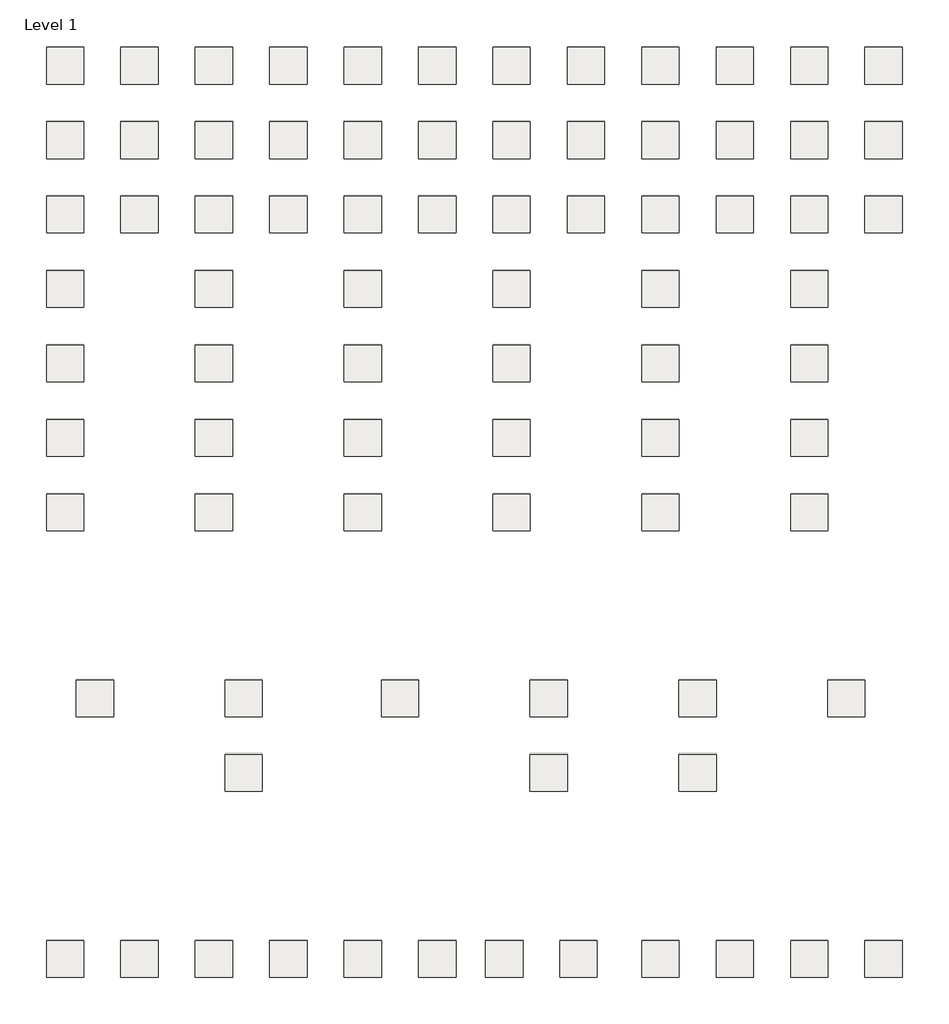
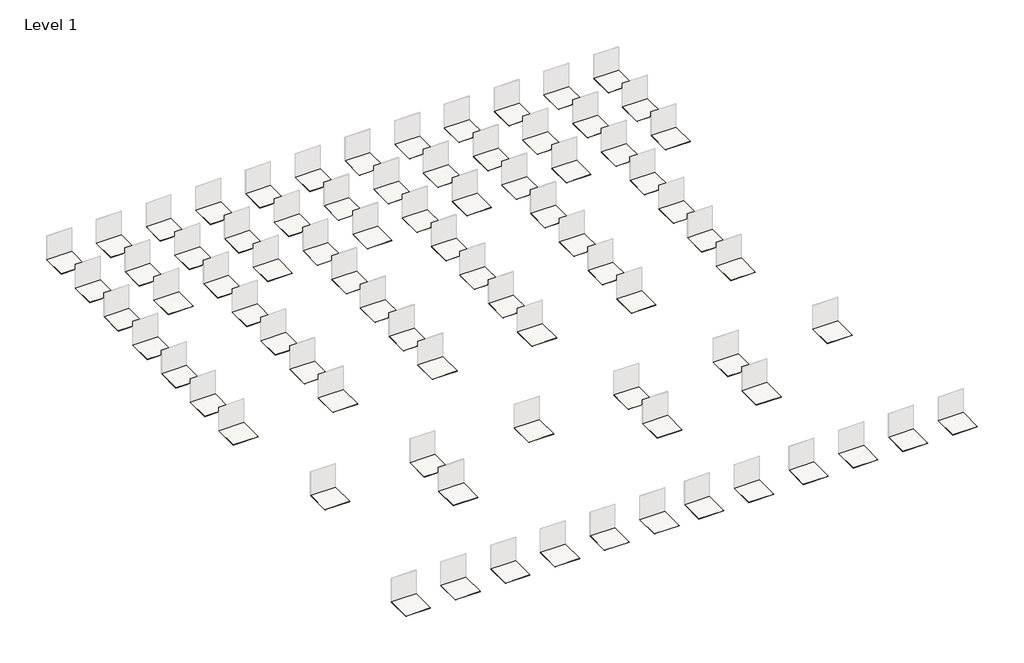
# One storey, part 2 of 2: 81 coverings.
"""IFC4 building model written with IfcOpenShell, lengths in millimetres."""

from ifc_helpers import new_model, si_unit, frame, origin, place, context, project, spatial, polyline, outline, extrude, element, save

model = new_model("IFC4")

# Units and contexts
model_context = context("Model", 3, world=origin())
ifc_project = project(units=[si_unit("LENGTHUNIT", "METRE", prefix="MILLI")], contexts=[model_context])

# Site, building, storey
site = spatial("IfcSite", under=ifc_project)
building = spatial("IfcBuilding", under=site)
storey = spatial("IfcBuildingStorey", under=building, Name="Level 1", Elevation=0.0)

# Coverings
placement = place(None, origin())
element("IfcCovering", 1, ObjectType="REVIGRÉS-URBAN-BASE-29,5X29,5-RECT-ANTRACITE", at=placement, inside=storey, context=model_context, shape_type="SweptSolid", body=[
    extrude(outline(polyline([(3778.642714, -1191.9242026), (3778.642714, -2191.9242026), (2778.642714, -2191.9242026), (2778.642714, -1191.9242026), (3778.642714, -1191.9242026)])), frame((0.0, 0.0, -7.7), z_axis=(0.0, 0.0, 1.0), x_axis=(1.0, 0.0, 0.0)), (0.0, 0.0, 1.0), 7.7),
])
element("IfcCovering", 2, ObjectType="REVIGRÉS-URBAN-BASE-30X30-NAT-ANTRACITE", at=placement, inside=storey, context=model_context, shape_type="SweptSolid", body=[
    extrude(outline(polyline([(5778.642714, -1191.9242026), (5778.642714, -2191.9242026), (4778.642714, -2191.9242026), (4778.642714, -1191.9242026), (5778.642714, -1191.9242026)])), frame((0.0, 0.0, -8.5), z_axis=(0.0, 0.0, 1.0), x_axis=(1.0, 0.0, 0.0)), (0.0, 0.0, 1.0), 8.5),
])
element("IfcCovering", 3, ObjectType="REVIGRÉS-URBAN-BASE-29,5X29,5-RECT-BONE", at=placement, inside=storey, context=model_context, shape_type="SweptSolid", body=[
    extrude(outline(polyline([(7778.642714, -1191.9242026), (7778.642714, -2191.9242026), (6778.642714, -2191.9242026), (6778.642714, -1191.9242026), (7778.642714, -1191.9242026)])), frame((0.0, 0.0, -7.7), z_axis=(0.0, 0.0, 1.0), x_axis=(1.0, 0.0, 0.0)), (0.0, 0.0, 1.0), 7.7),
])
element("IfcCovering", 4, ObjectType="REVIGRÉS-URBAN-BASE-30X30-NAT-BONE", at=placement, inside=storey, context=model_context, shape_type="SweptSolid", body=[
    extrude(outline(polyline([(9778.642714, -1191.9242026), (9778.642714, -2191.9242026), (8778.642714, -2191.9242026), (8778.642714, -1191.9242026), (9778.642714, -1191.9242026)])), frame((0.0, 0.0, -8.5), z_axis=(0.0, 0.0, 1.0), x_axis=(1.0, 0.0, 0.0)), (0.0, 0.0, 1.0), 8.5),
])
element("IfcCovering", 5, ObjectType="REVIGRÉS-URBAN-BASE-29,5X29,5-RECT-CRAFT", at=placement, inside=storey, context=model_context, shape_type="SweptSolid", body=[
    extrude(outline(polyline([(11778.642714, -1191.9242026), (11778.642714, -2191.9242026), (10778.642714, -2191.9242026), (10778.642714, -1191.9242026), (11778.642714, -1191.9242026)])), frame((0.0, 0.0, -7.7), z_axis=(0.0, 0.0, 1.0), x_axis=(1.0, 0.0, 0.0)), (0.0, 0.0, 1.0), 7.7),
])
element("IfcCovering", 6, ObjectType="REVIGRÉS-URBAN-BASE-30X30-NAT-CRAFT", at=placement, inside=storey, context=model_context, shape_type="SweptSolid", body=[
    extrude(outline(polyline([(13778.642714, -1191.9242026), (13778.642714, -2191.9242026), (12778.642714, -2191.9242026), (12778.642714, -1191.9242026), (13778.642714, -1191.9242026)])), frame((0.0, 0.0, -8.5), z_axis=(0.0, 0.0, 1.0), x_axis=(1.0, 0.0, 0.0)), (0.0, 0.0, 1.0), 8.5),
])
element("IfcCovering", 7, ObjectType="REVIGRÉS-URBAN-BASE-29,5X29,5-RECT-FOG", at=placement, inside=storey, context=model_context, shape_type="SweptSolid", body=[
    extrude(outline(polyline([(15778.642714, -1191.9242026), (15778.642714, -2191.9242026), (14778.642714, -2191.9242026), (14778.642714, -1191.9242026), (15778.642714, -1191.9242026)])), frame((0.0, 0.0, -7.7), z_axis=(0.0, 0.0, 1.0), x_axis=(1.0, 0.0, 0.0)), (0.0, 0.0, 1.0), 7.7),
])
element("IfcCovering", 8, ObjectType="REVIGRÉS-URBAN-BASE-30X30-NAT-FOG", at=placement, inside=storey, context=model_context, shape_type="SweptSolid", body=[
    extrude(outline(polyline([(17778.642714, -1191.9242026), (17778.642714, -2191.9242026), (16778.642714, -2191.9242026), (16778.642714, -1191.9242026), (17778.642714, -1191.9242026)])), frame((0.0, 0.0, -8.5), z_axis=(0.0, 0.0, 1.0), x_axis=(1.0, 0.0, 0.0)), (0.0, 0.0, 1.0), 8.5),
])
element("IfcCovering", 9, ObjectType="REVIGRÉS-URBAN-BASE-29,5X29,5-RECT-GRIS", at=placement, inside=storey, context=model_context, shape_type="SweptSolid", body=[
    extrude(outline(polyline([(19778.642714, -1191.9242026), (19778.642714, -2191.9242026), (18778.642714, -2191.9242026), (18778.642714, -1191.9242026), (19778.642714, -1191.9242026)])), frame((0.0, 0.0, -7.7), z_axis=(0.0, 0.0, 1.0), x_axis=(1.0, 0.0, 0.0)), (0.0, 0.0, 1.0), 7.7),
])
element("IfcCovering", 10, ObjectType="REVIGRÉS-URBAN-BASE-30X30-NAT-GRIS", at=placement, inside=storey, context=model_context, shape_type="SweptSolid", body=[
    extrude(outline(polyline([(21778.642714, -1191.9242026), (21778.642714, -2191.9242026), (20778.642714, -2191.9242026), (20778.642714, -1191.9242026), (21778.642714, -1191.9242026)])), frame((0.0, 0.0, -8.5), z_axis=(0.0, 0.0, 1.0), x_axis=(1.0, 0.0, 0.0)), (0.0, 0.0, 1.0), 8.5),
])
element("IfcCovering", 11, ObjectType="REVIGRÉS-URBAN-BASE-29,5X29,5-RECT-OFFWHITE", at=placement, inside=storey, context=model_context, shape_type="SweptSolid", body=[
    extrude(outline(polyline([(23778.642714, -1191.9242026), (23778.642714, -2191.9242026), (22778.642714, -2191.9242026), (22778.642714, -1191.9242026), (23778.642714, -1191.9242026)])), frame((0.0, 0.0, -7.7), z_axis=(0.0, 0.0, 1.0), x_axis=(1.0, 0.0, 0.0)), (0.0, 0.0, 1.0), 7.7),
])
element("IfcCovering", 12, ObjectType="REVIGRÉS-URBAN-BASE-29,5X59,2-RECT-ANTRACITE", at=placement, inside=storey, context=model_context, shape_type="SweptSolid", body=[
    extrude(outline(polyline([(3778.642714, -3191.9242026), (3778.642714, -4191.9242026), (2778.642714, -4191.9242026), (2778.642714, -3191.9242026), (3778.642714, -3191.9242026)])), frame((0.0, 0.0, -8.5), z_axis=(0.0, 0.0, 1.0), x_axis=(1.0, 0.0, 0.0)), (0.0, 0.0, 1.0), 8.5),
])
element("IfcCovering", 13, ObjectType="REVIGRÉS-URBAN-BASE-29,5X59,2-RECT-BONE", at=placement, inside=storey, context=model_context, shape_type="SweptSolid", body=[
    extrude(outline(polyline([(7778.642714, -3191.9242026), (7778.642714, -4191.9242026), (6778.642714, -4191.9242026), (6778.642714, -3191.9242026), (7778.642714, -3191.9242026)])), frame((0.0, 0.0, -8.5), z_axis=(0.0, 0.0, 1.0), x_axis=(1.0, 0.0, 0.0)), (0.0, 0.0, 1.0), 8.5),
])
element("IfcCovering", 14, ObjectType="REVIGRÉS-URBAN-BASE-29,5X59,2-RECT-CRAFT", at=placement, inside=storey, context=model_context, shape_type="SweptSolid", body=[
    extrude(outline(polyline([(11778.642714, -3191.9242026), (11778.642714, -4191.9242026), (10778.642714, -4191.9242026), (10778.642714, -3191.9242026), (11778.642714, -3191.9242026)])), frame((0.0, 0.0, -8.5), z_axis=(0.0, 0.0, 1.0), x_axis=(1.0, 0.0, 0.0)), (0.0, 0.0, 1.0), 8.5),
])
element("IfcCovering", 15, ObjectType="REVIGRÉS-URBAN-BASE-29,5X59,2-RECT-FOG", at=placement, inside=storey, context=model_context, shape_type="SweptSolid", body=[
    extrude(outline(polyline([(15778.642714, -3191.9242026), (15778.642714, -4191.9242026), (14778.642714, -4191.9242026), (14778.642714, -3191.9242026), (15778.642714, -3191.9242026)])), frame((0.0, 0.0, -8.5), z_axis=(0.0, 0.0, 1.0), x_axis=(1.0, 0.0, 0.0)), (0.0, 0.0, 1.0), 8.5),
])
element("IfcCovering", 16, ObjectType="REVIGRÉS-URBAN-BASE-29,5X59,2-RECT-GRIS", at=placement, inside=storey, context=model_context, shape_type="SweptSolid", body=[
    extrude(outline(polyline([(19778.642714, -3191.9242026), (19778.642714, -4191.9242026), (18778.642714, -4191.9242026), (18778.642714, -3191.9242026), (19778.642714, -3191.9242026)])), frame((0.0, 0.0, -8.5), z_axis=(0.0, 0.0, 1.0), x_axis=(1.0, 0.0, 0.0)), (0.0, 0.0, 1.0), 8.5),
])
element("IfcCovering", 17, ObjectType="REVIGRÉS-URBAN-BASE-29,5X59,2-RECT-OFFWHITE", at=placement, inside=storey, context=model_context, shape_type="SweptSolid", body=[
    extrude(outline(polyline([(23778.642714, -3191.9242026), (23778.642714, -4191.9242026), (22778.642714, -4191.9242026), (22778.642714, -3191.9242026), (23778.642714, -3191.9242026)])), frame((0.0, 0.0, -8.5), z_axis=(0.0, 0.0, 1.0), x_axis=(1.0, 0.0, 0.0)), (0.0, 0.0, 1.0), 8.5),
])
element("IfcCovering", 18, ObjectType="REVIGRÉS-URBAN-BASE-44,35X44,35-RECT-ANTRACITE", at=placement, inside=storey, context=model_context, shape_type="SweptSolid", body=[
    extrude(outline(polyline([(3778.642714, -5191.9242026), (3778.642714, -6191.9242026), (2778.642714, -6191.9242026), (2778.642714, -5191.9242026), (3778.642714, -5191.9242026)])), frame((0.0, 0.0, -8.5), z_axis=(0.0, 0.0, 1.0), x_axis=(1.0, 0.0, 0.0)), (0.0, 0.0, 1.0), 8.5),
])
element("IfcCovering", 19, ObjectType="REVIGRÉS-URBAN-BASE-45X45-NAT-ANTRACITE", at=placement, inside=storey, context=model_context, shape_type="SweptSolid", body=[
    extrude(outline(polyline([(5778.642714, -5191.9242026), (5778.642714, -6191.9242026), (4778.642714, -6191.9242026), (4778.642714, -5191.9242026), (5778.642714, -5191.9242026)])), frame((0.0, 0.0, -8.5), z_axis=(0.0, 0.0, 1.0), x_axis=(1.0, 0.0, 0.0)), (0.0, 0.0, 1.0), 8.5),
])
element("IfcCovering", 20, ObjectType="REVIGRÉS-URBAN-BASE-44,35X44,35-RECT-BONE", at=placement, inside=storey, context=model_context, shape_type="SweptSolid", body=[
    extrude(outline(polyline([(7778.642714, -5191.9242026), (7778.642714, -6191.9242026), (6778.642714, -6191.9242026), (6778.642714, -5191.9242026), (7778.642714, -5191.9242026)])), frame((0.0, 0.0, -8.5), z_axis=(0.0, 0.0, 1.0), x_axis=(1.0, 0.0, 0.0)), (0.0, 0.0, 1.0), 8.5),
])
element("IfcCovering", 21, ObjectType="REVIGRÉS-URBAN-BASE-45X45-NAT-BONE", at=placement, inside=storey, context=model_context, shape_type="SweptSolid", body=[
    extrude(outline(polyline([(9778.642714, -5191.9242026), (9778.642714, -6191.9242026), (8778.642714, -6191.9242026), (8778.642714, -5191.9242026), (9778.642714, -5191.9242026)])), frame((0.0, 0.0, -8.5), z_axis=(0.0, 0.0, 1.0), x_axis=(1.0, 0.0, 0.0)), (0.0, 0.0, 1.0), 8.5),
])
element("IfcCovering", 22, ObjectType="REVIGRÉS-URBAN-BASE-44,35X44,35-RECT-CRAFT", at=placement, inside=storey, context=model_context, shape_type="SweptSolid", body=[
    extrude(outline(polyline([(11778.642714, -5191.9242026), (11778.642714, -6191.9242026), (10778.642714, -6191.9242026), (10778.642714, -5191.9242026), (11778.642714, -5191.9242026)])), frame((0.0, 0.0, -8.5), z_axis=(0.0, 0.0, 1.0), x_axis=(1.0, 0.0, 0.0)), (0.0, 0.0, 1.0), 8.5),
])
element("IfcCovering", 23, ObjectType="REVIGRÉS-URBAN-BASE-45X45-NAT-CRAFT", at=placement, inside=storey, context=model_context, shape_type="SweptSolid", body=[
    extrude(outline(polyline([(13778.642714, -5191.9242026), (13778.642714, -6191.9242026), (12778.642714, -6191.9242026), (12778.642714, -5191.9242026), (13778.642714, -5191.9242026)])), frame((0.0, 0.0, -8.5), z_axis=(0.0, 0.0, 1.0), x_axis=(1.0, 0.0, 0.0)), (0.0, 0.0, 1.0), 8.5),
])
element("IfcCovering", 24, ObjectType="REVIGRÉS-URBAN-BASE-44,35X44,35-RECT-FOG", at=placement, inside=storey, context=model_context, shape_type="SweptSolid", body=[
    extrude(outline(polyline([(15778.642714, -5191.9242026), (15778.642714, -6191.9242026), (14778.642714, -6191.9242026), (14778.642714, -5191.9242026), (15778.642714, -5191.9242026)])), frame((0.0, 0.0, -8.5), z_axis=(0.0, 0.0, 1.0), x_axis=(1.0, 0.0, 0.0)), (0.0, 0.0, 1.0), 8.5),
])
element("IfcCovering", 25, ObjectType="REVIGRÉS-URBAN-BASE-45X45-NAT-FOG", at=placement, inside=storey, context=model_context, shape_type="SweptSolid", body=[
    extrude(outline(polyline([(17778.642714, -5191.9242026), (17778.642714, -6191.9242026), (16778.642714, -6191.9242026), (16778.642714, -5191.9242026), (17778.642714, -5191.9242026)])), frame((0.0, 0.0, -8.5), z_axis=(0.0, 0.0, 1.0), x_axis=(1.0, 0.0, 0.0)), (0.0, 0.0, 1.0), 8.5),
])
element("IfcCovering", 26, ObjectType="REVIGRÉS-URBAN-BASE-44,35X44,35-RECT-GRIS", at=placement, inside=storey, context=model_context, shape_type="SweptSolid", body=[
    extrude(outline(polyline([(19778.642714, -5191.9242026), (19778.642714, -6191.9242026), (18778.642714, -6191.9242026), (18778.642714, -5191.9242026), (19778.642714, -5191.9242026)])), frame((0.0, 0.0, -8.5), z_axis=(0.0, 0.0, 1.0), x_axis=(1.0, 0.0, 0.0)), (0.0, 0.0, 1.0), 8.5),
])
element("IfcCovering", 27, ObjectType="REVIGRÉS-URBAN-BASE-45X45-NAT-GRIS", at=placement, inside=storey, context=model_context, shape_type="SweptSolid", body=[
    extrude(outline(polyline([(21778.642714, -5191.9242026), (21778.642714, -6191.9242026), (20778.642714, -6191.9242026), (20778.642714, -5191.9242026), (21778.642714, -5191.9242026)])), frame((0.0, 0.0, -8.5), z_axis=(0.0, 0.0, 1.0), x_axis=(1.0, 0.0, 0.0)), (0.0, 0.0, 1.0), 8.5),
])
element("IfcCovering", 28, ObjectType="REVIGRÉS-URBAN-BASE-44,35X44,35-RECT-OFFWHITE", at=placement, inside=storey, context=model_context, shape_type="SweptSolid", body=[
    extrude(outline(polyline([(23778.642714, -5191.9242026), (23778.642714, -6191.9242026), (22778.642714, -6191.9242026), (22778.642714, -5191.9242026), (23778.642714, -5191.9242026)])), frame((0.0, 0.0, -8.5), z_axis=(0.0, 0.0, 1.0), x_axis=(1.0, 0.0, 0.0)), (0.0, 0.0, 1.0), 8.5),
])
element("IfcCovering", 29, ObjectType="REVIGRÉS-URBAN-BASE-44,35X88,9-RECT-ANTRACITE", at=placement, inside=storey, context=model_context, shape_type="SweptSolid", body=[
    extrude(outline(polyline([(3778.642714, -7191.9242026), (3778.642714, -8191.9242026), (2778.642714, -8191.9242026), (2778.642714, -7191.9242026), (3778.642714, -7191.9242026)])), frame((0.0, 0.0, -10.5), z_axis=(0.0, 0.0, 1.0), x_axis=(1.0, 0.0, 0.0)), (0.0, 0.0, 1.0), 10.5),
])
element("IfcCovering", 30, ObjectType="REVIGRÉS-URBAN-BASE-44,35X88,9-RECT-BONE", at=placement, inside=storey, context=model_context, shape_type="SweptSolid", body=[
    extrude(outline(polyline([(7778.642714, -7191.9242026), (7778.642714, -8191.9242026), (6778.642714, -8191.9242026), (6778.642714, -7191.9242026), (7778.642714, -7191.9242026)])), frame((0.0, 0.0, -10.5), z_axis=(0.0, 0.0, 1.0), x_axis=(1.0, 0.0, 0.0)), (0.0, 0.0, 1.0), 10.5),
])
element("IfcCovering", 31, ObjectType="REVIGRÉS-URBAN-BASE-44,35X88,9-RECT-CRAFT", at=placement, inside=storey, context=model_context, shape_type="SweptSolid", body=[
    extrude(outline(polyline([(11778.642714, -7191.9242026), (11778.642714, -8191.9242026), (10778.642714, -8191.9242026), (10778.642714, -7191.9242026), (11778.642714, -7191.9242026)])), frame((0.0, 0.0, -10.5), z_axis=(0.0, 0.0, 1.0), x_axis=(1.0, 0.0, 0.0)), (0.0, 0.0, 1.0), 10.5),
])
element("IfcCovering", 32, ObjectType="REVIGRÉS-URBAN-BASE-44,35X88,9-RECT-FOG", at=placement, inside=storey, context=model_context, shape_type="SweptSolid", body=[
    extrude(outline(polyline([(15778.642714, -7191.9242026), (15778.642714, -8191.9242026), (14778.642714, -8191.9242026), (14778.642714, -7191.9242026), (15778.642714, -7191.9242026)])), frame((0.0, 0.0, -10.5), z_axis=(0.0, 0.0, 1.0), x_axis=(1.0, 0.0, 0.0)), (0.0, 0.0, 1.0), 10.5),
])
element("IfcCovering", 33, ObjectType="REVIGRÉS-URBAN-BASE-44,35X88,9-RECT-GRIS", at=placement, inside=storey, context=model_context, shape_type="SweptSolid", body=[
    extrude(outline(polyline([(19778.642714, -7191.9242026), (19778.642714, -8191.9242026), (18778.642714, -8191.9242026), (18778.642714, -7191.9242026), (19778.642714, -7191.9242026)])), frame((0.0, 0.0, -10.5), z_axis=(0.0, 0.0, 1.0), x_axis=(1.0, 0.0, 0.0)), (0.0, 0.0, 1.0), 10.5),
])
element("IfcCovering", 34, ObjectType="REVIGRÉS-URBAN-BASE-44,35X88,9-RECT-OFFWHITE", at=placement, inside=storey, context=model_context, shape_type="SweptSolid", body=[
    extrude(outline(polyline([(23778.642714, -7191.9242026), (23778.642714, -8191.9242026), (22778.642714, -8191.9242026), (22778.642714, -7191.9242026), (23778.642714, -7191.9242026)])), frame((0.0, 0.0, -10.5), z_axis=(0.0, 0.0, 1.0), x_axis=(1.0, 0.0, 0.0)), (0.0, 0.0, 1.0), 10.5),
])
element("IfcCovering", 35, ObjectType="REVIGRÉS-URBAN-BASE-59,2X59,2-RECT-ANTRACITE", at=placement, inside=storey, context=model_context, shape_type="SweptSolid", body=[
    extrude(outline(polyline([(3778.642714, -9191.9242026), (3778.642714, -10191.9242026), (2778.642714, -10191.9242026), (2778.642714, -9191.9242026), (3778.642714, -9191.9242026)])), frame((0.0, 0.0, -10.5), z_axis=(0.0, 0.0, 1.0), x_axis=(1.0, 0.0, 0.0)), (0.0, 0.0, 1.0), 10.5),
])
element("IfcCovering", 36, ObjectType="REVIGRÉS-URBAN-BASE-59,2X59,2-RECT-BONE", at=placement, inside=storey, context=model_context, shape_type="SweptSolid", body=[
    extrude(outline(polyline([(7778.642714, -9191.9242026), (7778.642714, -10191.9242026), (6778.642714, -10191.9242026), (6778.642714, -9191.9242026), (7778.642714, -9191.9242026)])), frame((0.0, 0.0, -10.5), z_axis=(0.0, 0.0, 1.0), x_axis=(1.0, 0.0, 0.0)), (0.0, 0.0, 1.0), 10.5),
])
element("IfcCovering", 37, ObjectType="REVIGRÉS-URBAN-BASE-59,2X59,2-RECT-CRAFT", at=placement, inside=storey, context=model_context, shape_type="SweptSolid", body=[
    extrude(outline(polyline([(11778.642714, -9191.9242026), (11778.642714, -10191.9242026), (10778.642714, -10191.9242026), (10778.642714, -9191.9242026), (11778.642714, -9191.9242026)])), frame((0.0, 0.0, -10.5), z_axis=(0.0, 0.0, 1.0), x_axis=(1.0, 0.0, 0.0)), (0.0, 0.0, 1.0), 10.5),
])
element("IfcCovering", 38, ObjectType="REVIGRÉS-URBAN-BASE-59,2X59,2-RECT-FOG", at=placement, inside=storey, context=model_context, shape_type="SweptSolid", body=[
    extrude(outline(polyline([(15778.642714, -9191.9242026), (15778.642714, -10191.9242026), (14778.642714, -10191.9242026), (14778.642714, -9191.9242026), (15778.642714, -9191.9242026)])), frame((0.0, 0.0, -10.5), z_axis=(0.0, 0.0, 1.0), x_axis=(1.0, 0.0, 0.0)), (0.0, 0.0, 1.0), 10.5),
])
element("IfcCovering", 39, ObjectType="REVIGRÉS-URBAN-BASE-59,2X59,2-RECT-GRIS", at=placement, inside=storey, context=model_context, shape_type="SweptSolid", body=[
    extrude(outline(polyline([(19778.642714, -9191.9242026), (19778.642714, -10191.9242026), (18778.642714, -10191.9242026), (18778.642714, -9191.9242026), (19778.642714, -9191.9242026)])), frame((0.0, 0.0, -10.5), z_axis=(0.0, 0.0, 1.0), x_axis=(1.0, 0.0, 0.0)), (0.0, 0.0, 1.0), 10.5),
])
element("IfcCovering", 40, ObjectType="REVIGRÉS-URBAN-BASE-59,2X59,2-RECT-OFFWHITE", at=placement, inside=storey, context=model_context, shape_type="SweptSolid", body=[
    extrude(outline(polyline([(23778.642714, -9191.9242026), (23778.642714, -10191.9242026), (22778.642714, -10191.9242026), (22778.642714, -9191.9242026), (23778.642714, -9191.9242026)])), frame((0.0, 0.0, -10.5), z_axis=(0.0, 0.0, 1.0), x_axis=(1.0, 0.0, 0.0)), (0.0, 0.0, 1.0), 10.5),
])
element("IfcCovering", 41, ObjectType="REVIGRÉS-URBAN-BASE-59,2X118,6-RECT-ANTRACITE", at=placement, inside=storey, context=model_context, shape_type="SweptSolid", body=[
    extrude(outline(polyline([(3778.642714, -11191.9242026), (3778.642714, -12191.9242026), (2778.642714, -12191.9242026), (2778.642714, -11191.9242026), (3778.642714, -11191.9242026)])), frame((0.0, 0.0, -9.8), z_axis=(0.0, 0.0, 1.0), x_axis=(1.0, 0.0, 0.0)), (0.0, 0.0, 1.0), 9.8),
])
element("IfcCovering", 42, ObjectType="REVIGRÉS-URBAN-BASE-59,2X118,6-RECT-BONE", at=placement, inside=storey, context=model_context, shape_type="SweptSolid", body=[
    extrude(outline(polyline([(7778.642714, -11191.9242026), (7778.642714, -12191.9242026), (6778.642714, -12191.9242026), (6778.642714, -11191.9242026), (7778.642714, -11191.9242026)])), frame((0.0, 0.0, -9.8), z_axis=(0.0, 0.0, 1.0), x_axis=(1.0, 0.0, 0.0)), (0.0, 0.0, 1.0), 9.8),
])
element("IfcCovering", 43, ObjectType="REVIGRÉS-URBAN-BASE-59,2X118,6-RECT-CRAFT", at=placement, inside=storey, context=model_context, shape_type="SweptSolid", body=[
    extrude(outline(polyline([(11778.642714, -11191.9242026), (11778.642714, -12191.9242026), (10778.642714, -12191.9242026), (10778.642714, -11191.9242026), (11778.642714, -11191.9242026)])), frame((0.0, 0.0, -9.8), z_axis=(0.0, 0.0, 1.0), x_axis=(1.0, 0.0, 0.0)), (0.0, 0.0, 1.0), 9.8),
])
element("IfcCovering", 44, ObjectType="REVIGRÉS-URBAN-BASE-59,2X118,6-RECT-FOG", at=placement, inside=storey, context=model_context, shape_type="SweptSolid", body=[
    extrude(outline(polyline([(15778.642714, -11191.9242026), (15778.642714, -12191.9242026), (14778.642714, -12191.9242026), (14778.642714, -11191.9242026), (15778.642714, -11191.9242026)])), frame((0.0, 0.0, -9.8), z_axis=(0.0, 0.0, 1.0), x_axis=(1.0, 0.0, 0.0)), (0.0, 0.0, 1.0), 9.8),
])
element("IfcCovering", 45, ObjectType="REVIGRÉS-URBAN-BASE-59,2X118,6-RECT-GRIS", at=placement, inside=storey, context=model_context, shape_type="SweptSolid", body=[
    extrude(outline(polyline([(19778.642714, -11191.9242026), (19778.642714, -12191.9242026), (18778.642714, -12191.9242026), (18778.642714, -11191.9242026), (19778.642714, -11191.9242026)])), frame((0.0, 0.0, -9.8), z_axis=(0.0, 0.0, 1.0), x_axis=(1.0, 0.0, 0.0)), (0.0, 0.0, 1.0), 9.8),
])
element("IfcCovering", 46, ObjectType="REVIGRÉS-URBAN-BASE-59,2X118,6-RECT-OFFWHITE", at=placement, inside=storey, context=model_context, shape_type="SweptSolid", body=[
    extrude(outline(polyline([(23778.642714, -11191.9242026), (23778.642714, -12191.9242026), (22778.642714, -12191.9242026), (22778.642714, -11191.9242026), (23778.642714, -11191.9242026)])), frame((0.0, 0.0, -9.8), z_axis=(0.0, 0.0, 1.0), x_axis=(1.0, 0.0, 0.0)), (0.0, 0.0, 1.0), 9.8),
])
element("IfcCovering", 47, ObjectType="REVIGRÉS-URBAN-BASE-88,9X88,9-RECT-ANTRACITE", at=placement, inside=storey, context=model_context, shape_type="SweptSolid", body=[
    extrude(outline(polyline([(3778.642714, -13191.9242026), (3778.642714, -14191.9242026), (2778.642714, -14191.9242026), (2778.642714, -13191.9242026), (3778.642714, -13191.9242026)])), frame((0.0, 0.0, -10.5), z_axis=(0.0, 0.0, 1.0), x_axis=(1.0, 0.0, 0.0)), (0.0, 0.0, 1.0), 10.5),
])
element("IfcCovering", 48, ObjectType="REVIGRÉS-URBAN-BASE-88,9X88,9-RECT-BONE", at=placement, inside=storey, context=model_context, shape_type="SweptSolid", body=[
    extrude(outline(polyline([(7778.642714, -13191.9242026), (7778.642714, -14191.9242026), (6778.642714, -14191.9242026), (6778.642714, -13191.9242026), (7778.642714, -13191.9242026)])), frame((0.0, 0.0, -10.5), z_axis=(0.0, 0.0, 1.0), x_axis=(1.0, 0.0, 0.0)), (0.0, 0.0, 1.0), 10.5),
])
element("IfcCovering", 49, ObjectType="REVIGRÉS-URBAN-BASE-88,9X88,9-RECT-CRAFT", at=placement, inside=storey, context=model_context, shape_type="SweptSolid", body=[
    extrude(outline(polyline([(11778.642714, -13191.9242026), (11778.642714, -14191.9242026), (10778.642714, -14191.9242026), (10778.642714, -13191.9242026), (11778.642714, -13191.9242026)])), frame((0.0, 0.0, -10.5), z_axis=(0.0, 0.0, 1.0), x_axis=(1.0, 0.0, 0.0)), (0.0, 0.0, 1.0), 10.5),
])
element("IfcCovering", 50, ObjectType="REVIGRÉS-URBAN-BASE-88,9X88,9-RECT-FOG", at=placement, inside=storey, context=model_context, shape_type="SweptSolid", body=[
    extrude(outline(polyline([(15778.642714, -13191.9242026), (15778.642714, -14191.9242026), (14778.642714, -14191.9242026), (14778.642714, -13191.9242026), (15778.642714, -13191.9242026)])), frame((0.0, 0.0, -10.5), z_axis=(0.0, 0.0, 1.0), x_axis=(1.0, 0.0, 0.0)), (0.0, 0.0, 1.0), 10.5),
])
element("IfcCovering", 51, ObjectType="REVIGRÉS-URBAN-BASE-88,9X88,9-RECT-GRIS", at=placement, inside=storey, context=model_context, shape_type="SweptSolid", body=[
    extrude(outline(polyline([(19778.642714, -13191.9242026), (19778.642714, -14191.9242026), (18778.642714, -14191.9242026), (18778.642714, -13191.9242026), (19778.642714, -13191.9242026)])), frame((0.0, 0.0, -10.5), z_axis=(0.0, 0.0, 1.0), x_axis=(1.0, 0.0, 0.0)), (0.0, 0.0, 1.0), 10.5),
])
element("IfcCovering", 52, ObjectType="REVIGRÉS-URBAN-BASE-88,9X88,9-RECT-OFFWHITE", at=placement, inside=storey, context=model_context, shape_type="SweptSolid", body=[
    extrude(outline(polyline([(23778.642714, -13191.9242026), (23778.642714, -14191.9242026), (22778.642714, -14191.9242026), (22778.642714, -13191.9242026), (23778.642714, -13191.9242026)])), frame((0.0, 0.0, -10.5), z_axis=(0.0, 0.0, 1.0), x_axis=(1.0, 0.0, 0.0)), (0.0, 0.0, 1.0), 10.5),
])
element("IfcCovering", 53, ObjectType="REVIGRÉS-URBAN-BASE-30X30-NAT-OFFWHITE", at=placement, inside=storey, context=model_context, shape_type="SweptSolid", body=[
    extrude(outline(polyline([(25778.642714, -1191.9242026), (25778.642714, -2191.9242026), (24778.642714, -2191.9242026), (24778.642714, -1191.9242026), (25778.642714, -1191.9242026)])), frame((0.0, 0.0, -8.5), z_axis=(0.0, 0.0, 1.0), x_axis=(1.0, 0.0, 0.0)), (0.0, 0.0, 1.0), 8.5),
])
element("IfcCovering", 54, ObjectType="REVIGRÉS-URBAN-BASE-45X45-NAT-OFFWHITE", at=placement, inside=storey, context=model_context, shape_type="SweptSolid", body=[
    extrude(outline(polyline([(25778.642714, -5191.9242026), (25778.642714, -6191.9242026), (24778.642714, -6191.9242026), (24778.642714, -5191.9242026), (25778.642714, -5191.9242026)])), frame((0.0, 0.0, -8.5), z_axis=(0.0, 0.0, 1.0), x_axis=(1.0, 0.0, 0.0)), (0.0, 0.0, 1.0), 8.5),
])
element("IfcCovering", 55, ObjectType="REVIGRÉS-URBAN-BASE-30X60-NAT-ANTRACITE", at=placement, inside=storey, context=model_context, shape_type="SweptSolid", body=[
    extrude(outline(polyline([(5778.642714, -3191.9242026), (5778.642714, -4191.9242026), (4778.642714, -4191.9242026), (4778.642714, -3191.9242026), (5778.642714, -3191.9242026)])), frame((0.0, 0.0, -8.5), z_axis=(0.0, 0.0, 1.0), x_axis=(1.0, 0.0, 0.0)), (0.0, 0.0, 1.0), 8.5),
])
element("IfcCovering", 56, ObjectType="REVIGRÉS-URBAN-BASE-30X60-NAT-BONE", at=placement, inside=storey, context=model_context, shape_type="SweptSolid", body=[
    extrude(outline(polyline([(9778.642714, -3191.9242026), (9778.642714, -4191.9242026), (8778.642714, -4191.9242026), (8778.642714, -3191.9242026), (9778.642714, -3191.9242026)])), frame((0.0, 0.0, -8.5), z_axis=(0.0, 0.0, 1.0), x_axis=(1.0, 0.0, 0.0)), (0.0, 0.0, 1.0), 8.5),
])
element("IfcCovering", 57, ObjectType="REVIGRÉS-URBAN-BASE-30X60-NAT-CRAFT", at=placement, inside=storey, context=model_context, shape_type="SweptSolid", body=[
    extrude(outline(polyline([(13778.642714, -3191.9242026), (13778.642714, -4191.9242026), (12778.642714, -4191.9242026), (12778.642714, -3191.9242026), (13778.642714, -3191.9242026)])), frame((0.0, 0.0, -8.5), z_axis=(0.0, 0.0, 1.0), x_axis=(1.0, 0.0, 0.0)), (0.0, 0.0, 1.0), 8.5),
])
element("IfcCovering", 58, ObjectType="REVIGRÉS-URBAN-BASE-30X60-NAT-FOG", at=placement, inside=storey, context=model_context, shape_type="SweptSolid", body=[
    extrude(outline(polyline([(17778.642714, -3191.9242026), (17778.642714, -4191.9242026), (16778.642714, -4191.9242026), (16778.642714, -3191.9242026), (17778.642714, -3191.9242026)])), frame((0.0, 0.0, -8.5), z_axis=(0.0, 0.0, 1.0), x_axis=(1.0, 0.0, 0.0)), (0.0, 0.0, 1.0), 8.5),
])
element("IfcCovering", 59, ObjectType="REVIGRÉS-URBAN-BASE-30X60-NAT-GRIS", at=placement, inside=storey, context=model_context, shape_type="SweptSolid", body=[
    extrude(outline(polyline([(21778.642714, -3191.9242026), (21778.642714, -4191.9242026), (20778.642714, -4191.9242026), (20778.642714, -3191.9242026), (21778.642714, -3191.9242026)])), frame((0.0, 0.0, -8.5), z_axis=(0.0, 0.0, 1.0), x_axis=(1.0, 0.0, 0.0)), (0.0, 0.0, 1.0), 8.5),
])
element("IfcCovering", 60, ObjectType="REVIGRÉS-URBAN-BASE-30X60-NAT-OFFWHITE", at=placement, inside=storey, context=model_context, shape_type="SweptSolid", body=[
    extrude(outline(polyline([(25778.642714, -3191.9242026), (25778.642714, -4191.9242026), (24778.642714, -4191.9242026), (24778.642714, -3191.9242026), (25778.642714, -3191.9242026)])), frame((0.0, 0.0, -8.5), z_axis=(0.0, 0.0, 1.0), x_axis=(1.0, 0.0, 0.0)), (0.0, 0.0, 1.0), 8.5),
])
element("IfcCovering", 61, ObjectType="REVIGRÉS-URBAN-BASE-59,2X59,2-RECT-ANTISLIP ANTRACITE", at=placement, inside=storey, context=model_context, shape_type="SweptSolid", body=[
    extrude(outline(polyline([(4578.642714, -18191.9242026), (4578.642714, -19191.9242026), (3578.642714, -19191.9242026), (3578.642714, -18191.9242026), (4578.642714, -18191.9242026)])), frame((0.0, 0.0, -10.5), z_axis=(0.0, 0.0, 1.0), x_axis=(1.0, 0.0, 0.0)), (0.0, 0.0, 1.0), 10.5),
])
element("IfcCovering", 62, ObjectType="REVIGRÉS-URBAN-BASE-59,2X59,2-RECT-ANTISLIP BONE", at=placement, inside=storey, context=model_context, shape_type="SweptSolid", body=[
    extrude(outline(polyline([(8578.3955056, -18191.9242026), (8578.3955056, -19191.9242026), (7578.3955056, -19191.9242026), (7578.3955056, -18191.9242026), (8578.3955056, -18191.9242026)])), frame((0.0, 0.0, -10.5), z_axis=(0.0, 0.0, 1.0), x_axis=(1.0, 0.0, 0.0)), (0.0, 0.0, 1.0), 10.5),
])
element("IfcCovering", 63, ObjectType="REVIGRÉS-URBAN-BASE-59,2X59,2-RECT-ANTISLIP CRAFT", at=placement, inside=storey, context=model_context, shape_type="SweptSolid", body=[
    extrude(outline(polyline([(12778.642714, -18191.9242026), (12778.642714, -19191.9242026), (11778.642714, -19191.9242026), (11778.642714, -18191.9242026), (12778.642714, -18191.9242026)])), frame((0.0, 0.0, -10.5), z_axis=(0.0, 0.0, 1.0), x_axis=(1.0, 0.0, 0.0)), (0.0, 0.0, 1.0), 10.5),
])
element("IfcCovering", 64, ObjectType="REVIGRÉS-URBAN-BASE-59,2X59,2-RECT-ANTISLIP FOG", at=placement, inside=storey, context=model_context, shape_type="SweptSolid", body=[
    extrude(outline(polyline([(16778.642714, -18191.9242026), (16778.642714, -19191.9242026), (15778.642714, -19191.9242026), (15778.642714, -18191.9242026), (16778.642714, -18191.9242026)])), frame((0.0, 0.0, -10.5), z_axis=(0.0, 0.0, 1.0), x_axis=(1.0, 0.0, 0.0)), (0.0, 0.0, 1.0), 10.5),
])
element("IfcCovering", 65, ObjectType="REVIGRÉS-URBAN-BASE-59,2X59,2-RECT-ANTISLIP GRIS", at=placement, inside=storey, context=model_context, shape_type="SweptSolid", body=[
    extrude(outline(polyline([(20778.642714, -18191.9242026), (20778.642714, -19191.9242026), (19778.642714, -19191.9242026), (19778.642714, -18191.9242026), (20778.642714, -18191.9242026)])), frame((0.0, 0.0, -10.5), z_axis=(0.0, 0.0, 1.0), x_axis=(1.0, 0.0, 0.0)), (0.0, 0.0, 1.0), 10.5),
])
element("IfcCovering", 66, ObjectType="REVIGRÉS-URBAN-BASE-59,2X59,2-RECT-ANTISLIP OFFWHITE", at=placement, inside=storey, context=model_context, shape_type="SweptSolid", body=[
    extrude(outline(polyline([(24778.642714, -18191.9242026), (24778.642714, -19191.9242026), (23778.642714, -19191.9242026), (23778.642714, -18191.9242026), (24778.642714, -18191.9242026)])), frame((0.0, 0.0, -10.5), z_axis=(0.0, 0.0, 1.0), x_axis=(1.0, 0.0, 0.0)), (0.0, 0.0, 1.0), 10.5),
])
element("IfcCovering", 67, ObjectType="REVIGRÉS-URBAN-BASE-44,35X44,35-RECT HYDRAULIK ANTRACITE", at=placement, inside=storey, context=model_context, shape_type="SweptSolid", body=[
    extrude(outline(polyline([(3778.642714, -25191.9242026), (3778.642714, -26191.9242026), (2778.642714, -26191.9242026), (2778.642714, -25191.9242026), (3778.642714, -25191.9242026)])), frame((0.0, 0.0, -8.5), z_axis=(0.0, 0.0, 1.0), x_axis=(1.0, 0.0, 0.0)), (0.0, 0.0, 1.0), 8.5),
])
element("IfcCovering", 68, ObjectType="REVIGRÉS-URBAN-BASE-45X45-NAT HYDRAULIK ANTRACITE", at=placement, inside=storey, context=model_context, shape_type="SweptSolid", body=[
    extrude(outline(polyline([(5778.642714, -25191.9242026), (5778.642714, -26191.9242026), (4778.642714, -26191.9242026), (4778.642714, -25191.9242026), (5778.642714, -25191.9242026)])), frame((0.0, 0.0, -8.5), z_axis=(0.0, 0.0, 1.0), x_axis=(1.0, 0.0, 0.0)), (0.0, 0.0, 1.0), 8.5),
])
element("IfcCovering", 69, ObjectType="REVIGRÉS-URBAN-BASE-44,35X44,35-RECT HYDRAULIK BONE", at=placement, inside=storey, context=model_context, shape_type="SweptSolid", body=[
    extrude(outline(polyline([(7778.642714, -25191.9242026), (7778.642714, -26191.9242026), (6778.642714, -26191.9242026), (6778.642714, -25191.9242026), (7778.642714, -25191.9242026)])), frame((0.0, 0.0, -8.5), z_axis=(0.0, 0.0, 1.0), x_axis=(1.0, 0.0, 0.0)), (0.0, 0.0, 1.0), 8.5),
])
element("IfcCovering", 70, ObjectType="REVIGRÉS-URBAN-BASE-45X45-NAT HYDRAULIK BONE", at=placement, inside=storey, context=model_context, shape_type="SweptSolid", body=[
    extrude(outline(polyline([(9778.642714, -25191.9242026), (9778.642714, -26191.9242026), (8778.642714, -26191.9242026), (8778.642714, -25191.9242026), (9778.642714, -25191.9242026)])), frame((0.0, 0.0, -8.5), z_axis=(0.0, 0.0, 1.0), x_axis=(1.0, 0.0, 0.0)), (0.0, 0.0, 1.0), 8.5),
])
element("IfcCovering", 71, ObjectType="REVIGRÉS-URBAN-BASE-44,35X44,35-RECT HYDRAULIK CRAFT", at=placement, inside=storey, context=model_context, shape_type="SweptSolid", body=[
    extrude(outline(polyline([(11778.642714, -25191.9242026), (11778.642714, -26191.9242026), (10778.642714, -26191.9242026), (10778.642714, -25191.9242026), (11778.642714, -25191.9242026)])), frame((0.0, 0.0, -8.5), z_axis=(0.0, 0.0, 1.0), x_axis=(1.0, 0.0, 0.0)), (0.0, 0.0, 1.0), 8.5),
])
element("IfcCovering", 72, ObjectType="REVIGRÉS-URBAN-BASE-45X45-NAT HYDRAULIK CRAFT", at=placement, inside=storey, context=model_context, shape_type="SweptSolid", body=[
    extrude(outline(polyline([(13778.642714, -25191.9242026), (13778.642714, -26191.9242026), (12778.642714, -26191.9242026), (12778.642714, -25191.9242026), (13778.642714, -25191.9242026)])), frame((0.0, 0.0, -8.5), z_axis=(0.0, 0.0, 1.0), x_axis=(1.0, 0.0, 0.0)), (0.0, 0.0, 1.0), 8.5),
])
element("IfcCovering", 73, ObjectType="REVIGRÉS-URBAN-BASE-44,35X44,35-RECT HYDRAULIK FOG", at=placement, inside=storey, context=model_context, shape_type="SweptSolid", body=[
    extrude(outline(polyline([(15578.642714, -25191.9242026), (15578.642714, -26191.9242026), (14578.642714, -26191.9242026), (14578.642714, -25191.9242026), (15578.642714, -25191.9242026)])), frame((0.0, 0.0, -8.5), z_axis=(0.0, 0.0, 1.0), x_axis=(1.0, 0.0, 0.0)), (0.0, 0.0, 1.0), 8.5),
])
element("IfcCovering", 74, ObjectType="REVIGRÉS-URBAN-BASE-45X45-NAT HYDRAULIK FOG", at=placement, inside=storey, context=model_context, shape_type="SweptSolid", body=[
    extrude(outline(polyline([(17578.642714, -25191.9242026), (17578.642714, -26191.9242026), (16578.642714, -26191.9242026), (16578.642714, -25191.9242026), (17578.642714, -25191.9242026)])), frame((0.0, 0.0, -8.5), z_axis=(0.0, 0.0, 1.0), x_axis=(1.0, 0.0, 0.0)), (0.0, 0.0, 1.0), 8.5),
])
element("IfcCovering", 75, ObjectType="REVIGRÉS-URBAN-BASE-44,35X44,35-RECT HYDRAULIK GRIS", at=placement, inside=storey, context=model_context, shape_type="SweptSolid", body=[
    extrude(outline(polyline([(19778.642714, -25191.9242026), (19778.642714, -26191.9242026), (18778.642714, -26191.9242026), (18778.642714, -25191.9242026), (19778.642714, -25191.9242026)])), frame((0.0, 0.0, -8.5), z_axis=(0.0, 0.0, 1.0), x_axis=(1.0, 0.0, 0.0)), (0.0, 0.0, 1.0), 8.5),
])
element("IfcCovering", 76, ObjectType="REVIGRÉS-URBAN-BASE-45X45-NAT HYDRAULIK GRIS", at=placement, inside=storey, context=model_context, shape_type="SweptSolid", body=[
    extrude(outline(polyline([(21778.642714, -25191.9242026), (21778.642714, -26191.9242026), (20778.642714, -26191.9242026), (20778.642714, -25191.9242026), (21778.642714, -25191.9242026)])), frame((0.0, 0.0, -8.5), z_axis=(0.0, 0.0, 1.0), x_axis=(1.0, 0.0, 0.0)), (0.0, 0.0, 1.0), 8.5),
])
element("IfcCovering", 77, ObjectType="REVIGRÉS-URBAN-BASE-44,35X44,35-RECT HYDRAULIK OFFWHITE", at=placement, inside=storey, context=model_context, shape_type="SweptSolid", body=[
    extrude(outline(polyline([(23778.642714, -25191.9242026), (23778.642714, -26191.9242026), (22778.642714, -26191.9242026), (22778.642714, -25191.9242026), (23778.642714, -25191.9242026)])), frame((0.0, 0.0, -8.5), z_axis=(0.0, 0.0, 1.0), x_axis=(1.0, 0.0, 0.0)), (0.0, 0.0, 1.0), 8.5),
])
element("IfcCovering", 78, ObjectType="REVIGRÉS-URBAN-BASE-45X45-NAT HYDRAULIK OFFWHITE", at=placement, inside=storey, context=model_context, shape_type="SweptSolid", body=[
    extrude(outline(polyline([(25778.642714, -25191.9242026), (25778.642714, -26191.9242026), (24778.642714, -26191.9242026), (24778.642714, -25191.9242026), (25778.642714, -25191.9242026)])), frame((0.0, 0.0, -8.5), z_axis=(0.0, 0.0, 1.0), x_axis=(1.0, 0.0, 0.0)), (0.0, 0.0, 1.0), 8.5),
])
element("IfcCovering", 79, ObjectType="REVIGRÉS-URBAN-BASE-59,8X59,8X2-RECT-ANTISLIP BONE", at=placement, inside=storey, context=model_context, shape_type="SweptSolid", body=[
    extrude(outline(polyline([(8578.3955056, -20191.9242026), (8578.3955056, -21191.9242026), (7578.3955056, -21191.9242026), (7578.3955056, -20191.9242026), (8578.3955056, -20191.9242026)])), frame((0.0, 0.0, -20.0), z_axis=(0.0, 0.0, 1.0), x_axis=(1.0, 0.0, 0.0)), (0.0, 0.0, 1.0), 20.0),
])
element("IfcCovering", 80, ObjectType="REVIGRÉS-URBAN-BASE-59,8X59,8X2-RECT-ANTISLIP FOG", at=placement, inside=storey, context=model_context, shape_type="SweptSolid", body=[
    extrude(outline(polyline([(16778.642714, -20191.9242026), (16778.642714, -21191.9242026), (15778.642714, -21191.9242026), (15778.642714, -20191.9242026), (16778.642714, -20191.9242026)])), frame((0.0, 0.0, -20.0), z_axis=(0.0, 0.0, 1.0), x_axis=(1.0, 0.0, 0.0)), (0.0, 0.0, 1.0), 20.0),
])
element("IfcCovering", 81, ObjectType="REVIGRÉS-URBAN-BASE-59,8X59,8X2-RECT-ANTISLIP GRIS", at=placement, inside=storey, context=model_context, shape_type="SweptSolid", body=[
    extrude(outline(polyline([(20778.642714, -20191.9242026), (20778.642714, -21191.9242026), (19778.642714, -21191.9242026), (19778.642714, -20191.9242026), (20778.642714, -20191.9242026)])), frame((0.0, 0.0, -20.0), z_axis=(0.0, 0.0, 1.0), x_axis=(1.0, 0.0, 0.0)), (0.0, 0.0, 1.0), 20.0),
])

save(model, "model.ifc")
